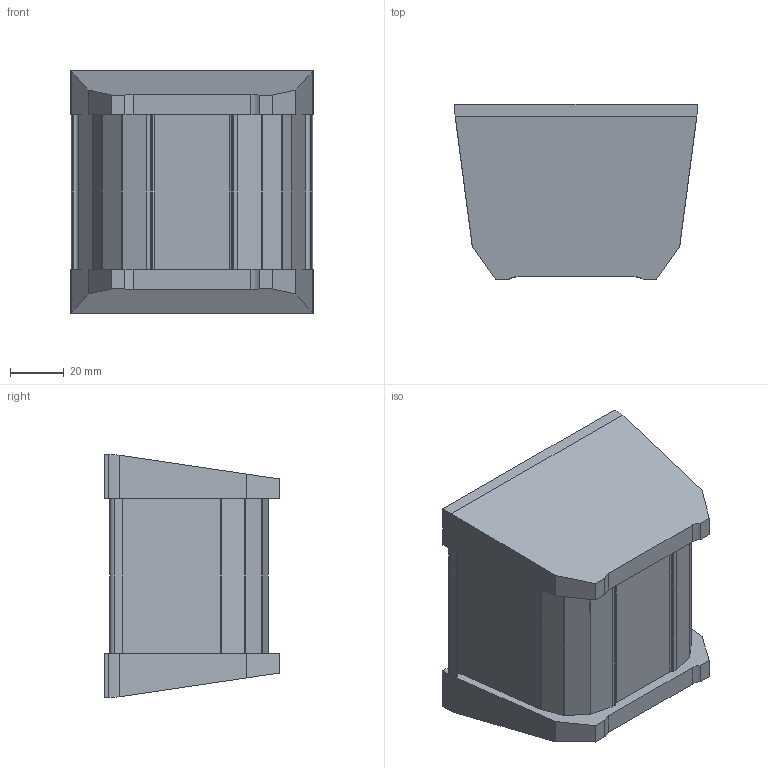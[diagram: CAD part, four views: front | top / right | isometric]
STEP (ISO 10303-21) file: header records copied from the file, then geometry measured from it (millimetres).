
FILE_DESCRIPTION (( 'STEP AP214' ), '1' );
FILE_NAME ('Besteckschale NL 90 L90,5.step', '2010-09-21T13:13:32', ( 'grass' ), ( '' ), 'SwSTEP 2.0', 'SolidWorks 2010', '' );
FILE_SCHEMA (( 'AUTOMOTIVE_DESIGN' ));
Length unit declared in the file: millimetre
Products named in the file (1): Besteckschale NL 90 L90,5
Bounding box: 90.5 x 65.5 x 90.5 mm (x, y, z)
Volume: 53274 mm3; surface area: 50897.2 mm2
Topology: 1 solids, 1 shells, 112 faces, 324 edges, 216 vertices
Faces by surface type: plane 80, cylinder 32
Entity records: 3702 total; most frequent: CARTESIAN_POINT 677, ORIENTED_EDGE 648, DIRECTION 602, EDGE_CURVE 324, VECTOR 256, LINE 256, VERTEX_POINT 216, AXIS2_PLACEMENT_3D 173
